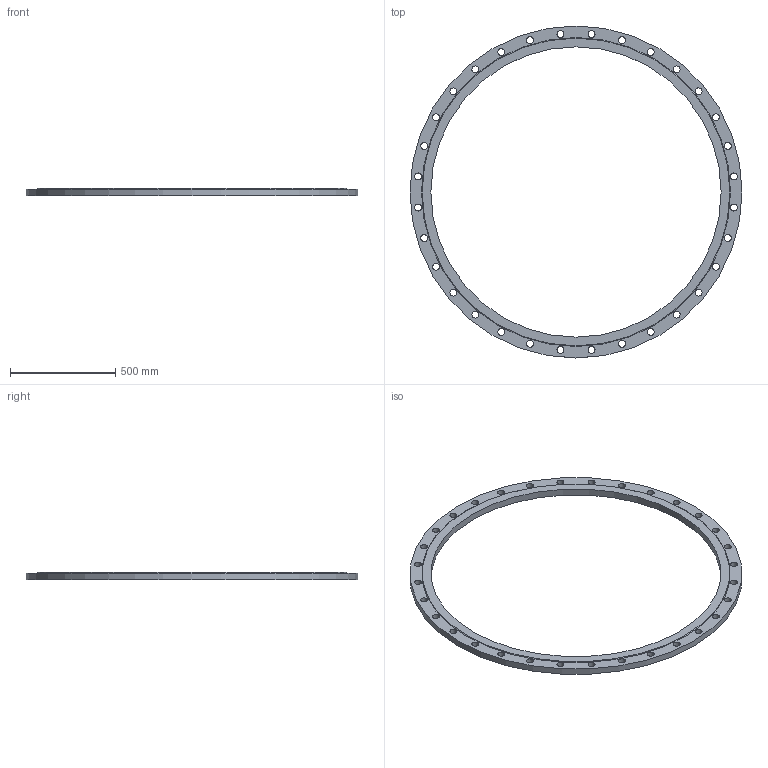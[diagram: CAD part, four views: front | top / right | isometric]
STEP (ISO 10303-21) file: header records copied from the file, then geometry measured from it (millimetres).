
FILE_DESCRIPTION(/* description */ (''),/* implementation_level */ '2;1');
FILE_NAME(/* name */ 'C:\Users\D\Documents\Inventor\HP\JIS\フランジ\JIS 5k sop rf\jis5k-sop-rf-1350.stp',/* time_stamp */ '2024-09-12T17:02:17+09:00',/* author */ ('D'),/* organization */ (''),/* preprocessor_version */ 'ST-DEVELOPER v18',/* originating_system */ 'Autodesk Inventor 2020',/* authorisation */ '');
FILE_SCHEMA (('AUTOMOTIVE_DESIGN { 1 0 10303 214 3 1 1 }'));
Length unit declared in the file: millimetre
Products named in the file (1): jis5k-sop-rf-10
Bounding box: 1575 x 1575 x 34 mm (x, y, z)
Volume: 13946150.9 mm3; surface area: 1274557.8 mm2
Topology: 1 solids, 1 shells, 38 faces, 110 edges, 75 vertices
Faces by surface type: cylinder 34, plane 3, torus 1
Full cylindrical faces by diameter (mm): 33 x32, 1377 x1, 1575 x1
Entity records: 1483 total; most frequent: DIRECTION 264, CARTESIAN_POINT 224, ORIENTED_EDGE 220, AXIS2_PLACEMENT_3D 115, EDGE_CURVE 110, EDGE_LOOP 105, CIRCLE 76, VERTEX_POINT 75
